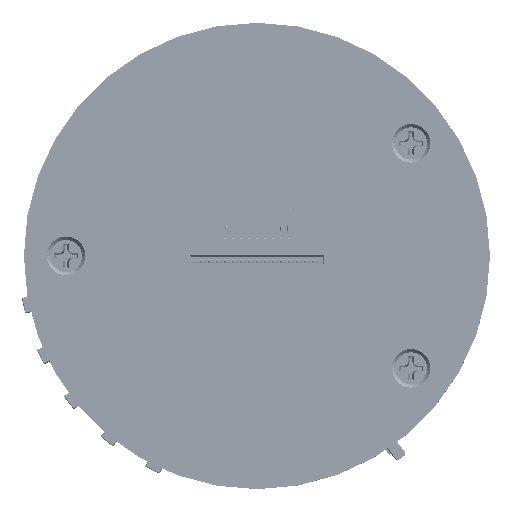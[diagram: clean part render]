
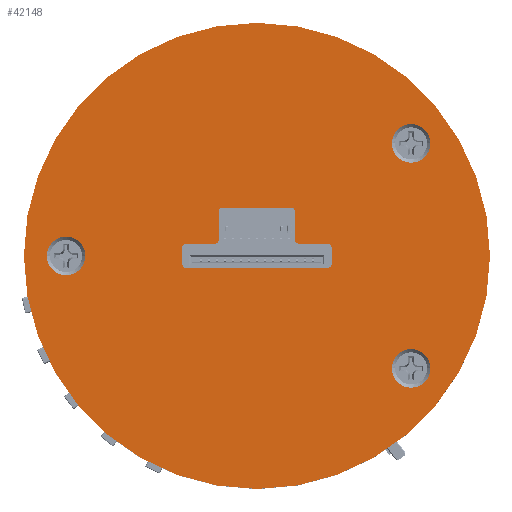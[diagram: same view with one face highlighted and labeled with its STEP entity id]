
A CAD part, top view. The second image highlights one B-rep face of the part: STEP entity #42148.
In plain terms, the highlighted planar face has unit normal (0, 0, 1).
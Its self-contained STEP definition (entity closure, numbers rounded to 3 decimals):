
#41411=CARTESIAN_POINT('',(0.,0.,-0.9));
#41412=DIRECTION('',(0.,0.,1.));
#41413=DIRECTION('',(1.,0.,0.));
#41414=AXIS2_PLACEMENT_3D('',#41411,#41412,#41413);
#41419=CARTESIAN_POINT('',(0.,0.,-0.9));
#41420=DIRECTION('',(0.,0.,1.));
#41421=DIRECTION('',(-1.,0.,0.));
#41422=AXIS2_PLACEMENT_3D('',#41419,#41420,#41421);
#41427=CARTESIAN_POINT('',(-5.25,2.,-0.9));
#41428=DIRECTION('',(0.,0.,1.));
#41429=DIRECTION('',(0.,-1.,0.));
#41430=AXIS2_PLACEMENT_3D('',#41427,#41428,#41429);
#41435=DIRECTION('',(-1.,0.,0.));
#41436=VECTOR('',#41435,3.55);
#41437=CARTESIAN_POINT('',(-5.25,1.5,-0.9));
#41438=LINE('',#41437,#41436);
#41442=DIRECTION('',(0.,-1.,0.));
#41443=VECTOR('',#41442,2.);
#41444=CARTESIAN_POINT('',(-9.3,1.,-0.9));
#41445=LINE('',#41444,#41443);
#41449=DIRECTION('',(1.,0.,0.));
#41450=VECTOR('',#41449,17.6);
#41451=CARTESIAN_POINT('',(-8.8,-1.5,-0.9));
#41452=LINE('',#41451,#41450);
#41456=DIRECTION('',(0.,1.,0.));
#41457=VECTOR('',#41456,2.);
#41458=CARTESIAN_POINT('',(9.3,-1.,-0.9));
#41459=LINE('',#41458,#41457);
#41463=DIRECTION('',(-1.,0.,0.));
#41464=VECTOR('',#41463,3.55);
#41465=CARTESIAN_POINT('',(8.8,1.5,-0.9));
#41466=LINE('',#41465,#41464);
#41470=CARTESIAN_POINT('',(5.25,2.,-0.9));
#41471=DIRECTION('',(0.,0.,1.));
#41472=DIRECTION('',(-1.,0.,0.));
#41473=AXIS2_PLACEMENT_3D('',#41470,#41471,#41472);
#41478=DIRECTION('',(0.,1.,0.));
#41479=VECTOR('',#41478,3.5);
#41480=CARTESIAN_POINT('',(4.75,2.,-0.9));
#41481=LINE('',#41480,#41479);
#41485=DIRECTION('',(-1.,0.,0.));
#41486=VECTOR('',#41485,8.5);
#41487=CARTESIAN_POINT('',(4.25,6.,-0.9));
#41488=LINE('',#41487,#41486);
#41492=DIRECTION('',(0.,-1.,0.));
#41493=VECTOR('',#41492,3.5);
#41494=CARTESIAN_POINT('',(-4.75,5.5,-0.9));
#41495=LINE('',#41494,#41493);
#41499=CARTESIAN_POINT('',(-23.75,0.,-0.9));
#41500=DIRECTION('',(0.,0.,-1.));
#41501=DIRECTION('',(1.,0.,0.));
#41502=AXIS2_PLACEMENT_3D('',#41499,#41500,#41501);
#41507=CARTESIAN_POINT('',(-23.75,0.,-0.9));
#41508=DIRECTION('',(0.,0.,-1.));
#41509=DIRECTION('',(-1.,0.,0.));
#41510=AXIS2_PLACEMENT_3D('',#41507,#41508,#41509);
#41515=CARTESIAN_POINT('',(19.185,14.,-0.9));
#41516=DIRECTION('',(0.,0.,-1.));
#41517=DIRECTION('',(1.,0.,0.));
#41518=AXIS2_PLACEMENT_3D('',#41515,#41516,#41517);
#41523=CARTESIAN_POINT('',(19.185,14.,-0.9));
#41524=DIRECTION('',(0.,0.,-1.));
#41525=DIRECTION('',(-1.,0.,0.));
#41526=AXIS2_PLACEMENT_3D('',#41523,#41524,#41525);
#41531=CARTESIAN_POINT('',(19.185,-14.,-0.9));
#41532=DIRECTION('',(0.,0.,-1.));
#41533=DIRECTION('',(1.,0.,0.));
#41534=AXIS2_PLACEMENT_3D('',#41531,#41532,#41533);
#41539=CARTESIAN_POINT('',(19.185,-14.,-0.9));
#41540=DIRECTION('',(0.,0.,-1.));
#41541=DIRECTION('',(-1.,0.,0.));
#41542=AXIS2_PLACEMENT_3D('',#41539,#41540,#41541);
#41561=CARTESIAN_POINT('',(-4.25,5.5,-0.9));
#41562=DIRECTION('',(0.,0.,-1.));
#41563=DIRECTION('',(-1.,0.,0.));
#41564=AXIS2_PLACEMENT_3D('',#41561,#41562,#41563);
#41591=CARTESIAN_POINT('',(4.25,5.5,-0.9));
#41592=DIRECTION('',(0.,0.,-1.));
#41593=DIRECTION('',(0.,1.,0.));
#41594=AXIS2_PLACEMENT_3D('',#41591,#41592,#41593);
#41635=CARTESIAN_POINT('',(8.8,1.,-0.9));
#41636=DIRECTION('',(0.,0.,-1.));
#41637=DIRECTION('',(0.,1.,0.));
#41638=AXIS2_PLACEMENT_3D('',#41635,#41636,#41637);
#41665=CARTESIAN_POINT('',(8.8,-1.,-0.9));
#41666=DIRECTION('',(0.,0.,-1.));
#41667=DIRECTION('',(1.,0.,0.));
#41668=AXIS2_PLACEMENT_3D('',#41665,#41666,#41667);
#41695=CARTESIAN_POINT('',(-8.8,-1.,-0.9));
#41696=DIRECTION('',(0.,0.,-1.));
#41697=DIRECTION('',(0.,-1.,0.));
#41698=AXIS2_PLACEMENT_3D('',#41695,#41696,#41697);
#41725=CARTESIAN_POINT('',(-8.8,1.,-0.9));
#41726=DIRECTION('',(0.,0.,-1.));
#41727=DIRECTION('',(-1.,0.,0.));
#41728=AXIS2_PLACEMENT_3D('',#41725,#41726,#41727);
#41903=CARTESIAN_POINT('',(29.,0.,-0.9));
#41904=CARTESIAN_POINT('',(-29.,0.,-0.9));
#41905=VERTEX_POINT('',#41903);
#41906=VERTEX_POINT('',#41904);
#41907=CARTESIAN_POINT('',(-21.35,0.,-0.9));
#41908=CARTESIAN_POINT('',(-26.15,0.,-0.9));
#41909=VERTEX_POINT('',#41907);
#41910=VERTEX_POINT('',#41908);
#41915=CARTESIAN_POINT('',(21.585,14.,-0.9));
#41916=CARTESIAN_POINT('',(16.785,14.,-0.9));
#41917=VERTEX_POINT('',#41915);
#41918=VERTEX_POINT('',#41916);
#41923=CARTESIAN_POINT('',(21.585,-14.,-0.9));
#41924=CARTESIAN_POINT('',(16.785,-14.,-0.9));
#41925=VERTEX_POINT('',#41923);
#41926=VERTEX_POINT('',#41924);
#41931=CARTESIAN_POINT('',(9.3,-1.,-0.9));
#41933=VERTEX_POINT('',#41931);
#41935=CARTESIAN_POINT('',(8.8,-1.5,-0.9));
#41937=VERTEX_POINT('',#41935);
#41939=CARTESIAN_POINT('',(-8.8,-1.5,-0.9));
#41941=VERTEX_POINT('',#41939);
#41943=CARTESIAN_POINT('',(-9.3,-1.,-0.9));
#41945=VERTEX_POINT('',#41943);
#41947=CARTESIAN_POINT('',(-9.3,1.,-0.9));
#41949=VERTEX_POINT('',#41947);
#41951=CARTESIAN_POINT('',(-8.8,1.5,-0.9));
#41953=VERTEX_POINT('',#41951);
#41957=CARTESIAN_POINT('',(9.3,1.,-0.9));
#41958=VERTEX_POINT('',#41957);
#41959=CARTESIAN_POINT('',(8.8,1.5,-0.9));
#41961=VERTEX_POINT('',#41959);
#41963=CARTESIAN_POINT('',(4.25,6.,-0.9));
#41965=VERTEX_POINT('',#41963);
#41967=CARTESIAN_POINT('',(4.75,5.5,-0.9));
#41969=VERTEX_POINT('',#41967);
#41971=CARTESIAN_POINT('',(-4.75,5.5,-0.9));
#41973=VERTEX_POINT('',#41971);
#41975=CARTESIAN_POINT('',(-4.25,6.,-0.9));
#41977=VERTEX_POINT('',#41975);
#41979=CARTESIAN_POINT('',(-5.25,1.5,-0.9));
#41980=CARTESIAN_POINT('',(-4.75,2.,-0.9));
#41981=VERTEX_POINT('',#41979);
#41982=VERTEX_POINT('',#41980);
#41987=CARTESIAN_POINT('',(4.75,2.,-0.9));
#41988=CARTESIAN_POINT('',(5.25,1.5,-0.9));
#41989=VERTEX_POINT('',#41987);
#41990=VERTEX_POINT('',#41988);
#42087=CARTESIAN_POINT('',(-23.75,0.,-0.9));
#42088=DIRECTION('',(0.,0.,1.));
#42089=DIRECTION('',(1.,0.,0.));
#42090=AXIS2_PLACEMENT_3D('',#42087,#42088,#42089);
#42091=PLANE('',#42090);
#42092=ORIENTED_EDGE('',*,*,#42067,.F.);
#42093=ORIENTED_EDGE('',*,*,#42081,.F.);
#42094=EDGE_LOOP('',(#42092,#42093));
#42095=FACE_OUTER_BOUND('',#42094,.F.);
#42097=ORIENTED_EDGE('',*,*,#42096,.F.);
#42099=ORIENTED_EDGE('',*,*,#42098,.T.);
#42101=ORIENTED_EDGE('',*,*,#42100,.F.);
#42103=ORIENTED_EDGE('',*,*,#42102,.T.);
#42105=ORIENTED_EDGE('',*,*,#42104,.F.);
#42107=ORIENTED_EDGE('',*,*,#42106,.T.);
#42109=ORIENTED_EDGE('',*,*,#42108,.F.);
#42111=ORIENTED_EDGE('',*,*,#42110,.T.);
#42113=ORIENTED_EDGE('',*,*,#42112,.F.);
#42115=ORIENTED_EDGE('',*,*,#42114,.T.);
#42117=ORIENTED_EDGE('',*,*,#42116,.F.);
#42119=ORIENTED_EDGE('',*,*,#42118,.T.);
#42121=ORIENTED_EDGE('',*,*,#42120,.F.);
#42123=ORIENTED_EDGE('',*,*,#42122,.T.);
#42125=ORIENTED_EDGE('',*,*,#42124,.F.);
#42127=ORIENTED_EDGE('',*,*,#42126,.T.);
#42128=EDGE_LOOP('',(#42097,#42099,#42101,#42103,#42105,#42107,#42109,#42111,
#42113,#42115,#42117,#42119,#42121,#42123,#42125,#42127));
#42129=FACE_BOUND('',#42128,.F.);
#42131=ORIENTED_EDGE('',*,*,#42130,.F.);
#42133=ORIENTED_EDGE('',*,*,#42132,.F.);
#42134=EDGE_LOOP('',(#42131,#42133));
#42135=FACE_BOUND('',#42134,.F.);
#42137=ORIENTED_EDGE('',*,*,#42136,.F.);
#42139=ORIENTED_EDGE('',*,*,#42138,.F.);
#42140=EDGE_LOOP('',(#42137,#42139));
#42141=FACE_BOUND('',#42140,.F.);
#42143=ORIENTED_EDGE('',*,*,#42142,.F.);
#42145=ORIENTED_EDGE('',*,*,#42144,.F.);
#42146=EDGE_LOOP('',(#42143,#42145));
#42147=FACE_BOUND('',#42146,.F.);
#42148=ADVANCED_FACE('',(#42095,#42129,#42135,#42141,#42147),#42091,.T.);
#41415=CIRCLE('',#41414,29.);
#41423=CIRCLE('',#41422,29.);
#41431=CIRCLE('',#41430,0.5);
#41474=CIRCLE('',#41473,0.5);
#41503=CIRCLE('',#41502,2.4);
#41511=CIRCLE('',#41510,2.4);
#41519=CIRCLE('',#41518,2.4);
#41527=CIRCLE('',#41526,2.4);
#41535=CIRCLE('',#41534,2.4);
#41543=CIRCLE('',#41542,2.4);
#41565=CIRCLE('',#41564,0.5);
#41595=CIRCLE('',#41594,0.5);
#41639=CIRCLE('',#41638,0.5);
#41669=CIRCLE('',#41668,0.5);
#41699=CIRCLE('',#41698,0.5);
#41729=CIRCLE('',#41728,0.5);
#42067=EDGE_CURVE('',#41905,#41906,#41415,.T.);
#42081=EDGE_CURVE('',#41906,#41905,#41423,.T.);
#42096=EDGE_CURVE('',#41981,#41982,#41431,.T.);
#42098=EDGE_CURVE('',#41981,#41953,#41438,.T.);
#42100=EDGE_CURVE('',#41949,#41953,#41729,.T.);
#42102=EDGE_CURVE('',#41949,#41945,#41445,.T.);
#42104=EDGE_CURVE('',#41941,#41945,#41699,.T.);
#42106=EDGE_CURVE('',#41941,#41937,#41452,.T.);
#42108=EDGE_CURVE('',#41933,#41937,#41669,.T.);
#42110=EDGE_CURVE('',#41933,#41958,#41459,.T.);
#42112=EDGE_CURVE('',#41961,#41958,#41639,.T.);
#42114=EDGE_CURVE('',#41961,#41990,#41466,.T.);
#42116=EDGE_CURVE('',#41989,#41990,#41474,.T.);
#42118=EDGE_CURVE('',#41989,#41969,#41481,.T.);
#42120=EDGE_CURVE('',#41965,#41969,#41595,.T.);
#42122=EDGE_CURVE('',#41965,#41977,#41488,.T.);
#42124=EDGE_CURVE('',#41973,#41977,#41565,.T.);
#42126=EDGE_CURVE('',#41973,#41982,#41495,.T.);
#42130=EDGE_CURVE('',#41909,#41910,#41503,.T.);
#42132=EDGE_CURVE('',#41910,#41909,#41511,.T.);
#42136=EDGE_CURVE('',#41917,#41918,#41519,.T.);
#42138=EDGE_CURVE('',#41918,#41917,#41527,.T.);
#42142=EDGE_CURVE('',#41925,#41926,#41535,.T.);
#42144=EDGE_CURVE('',#41926,#41925,#41543,.T.);
